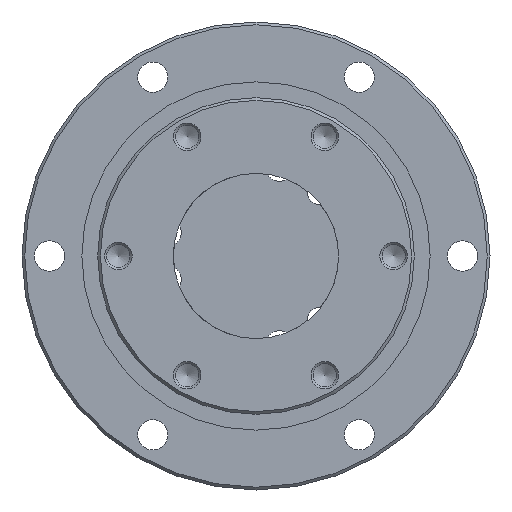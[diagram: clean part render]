
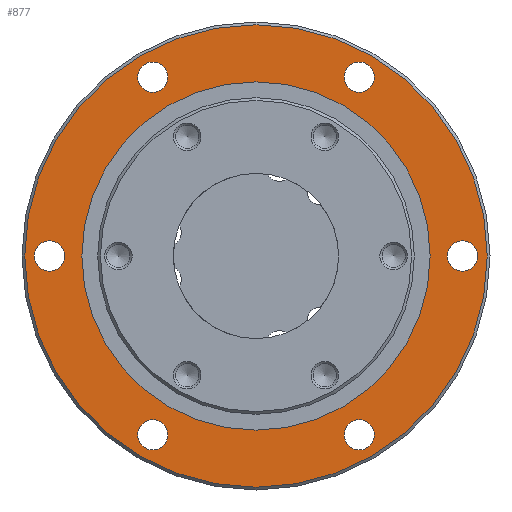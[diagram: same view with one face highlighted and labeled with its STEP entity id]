
A CAD part, left-side view. The second image highlights one B-rep face of the part: STEP entity #877.
In plain terms, the highlighted planar face has unit normal (-1, 0, 0).
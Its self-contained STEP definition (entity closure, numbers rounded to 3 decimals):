
#65=PLANE('',#1007);
#185=ORIENTED_EDGE('',*,*,#335,.F.);
#186=ORIENTED_EDGE('',*,*,#336,.F.);
#187=ORIENTED_EDGE('',*,*,#337,.F.);
#188=ORIENTED_EDGE('',*,*,#338,.F.);
#189=ORIENTED_EDGE('',*,*,#339,.F.);
#190=ORIENTED_EDGE('',*,*,#340,.F.);
#191=ORIENTED_EDGE('',*,*,#341,.F.);
#192=ORIENTED_EDGE('',*,*,#334,.T.);
#334=EDGE_CURVE('',#417,#417,#506,.T.);
#335=EDGE_CURVE('',#418,#418,#507,.T.);
#336=EDGE_CURVE('',#419,#419,#508,.F.);
#337=EDGE_CURVE('',#420,#420,#509,.F.);
#338=EDGE_CURVE('',#421,#421,#510,.F.);
#339=EDGE_CURVE('',#422,#422,#511,.F.);
#340=EDGE_CURVE('',#423,#423,#512,.F.);
#341=EDGE_CURVE('',#424,#424,#513,.F.);
#417=VERTEX_POINT('',#1528);
#418=VERTEX_POINT('',#1531);
#419=VERTEX_POINT('',#1533);
#420=VERTEX_POINT('',#1535);
#421=VERTEX_POINT('',#1537);
#422=VERTEX_POINT('',#1539);
#423=VERTEX_POINT('',#1541);
#424=VERTEX_POINT('',#1543);
#506=CIRCLE('',#1006,63.25);
#507=CIRCLE('',#1008,84.);
#508=CIRCLE('',#1009,5.5);
#509=CIRCLE('',#1010,5.5);
#510=CIRCLE('',#1011,5.5);
#511=CIRCLE('',#1012,5.5);
#512=CIRCLE('',#1013,5.5);
#513=CIRCLE('',#1014,5.5);
#584=EDGE_LOOP('',(#185));
#585=EDGE_LOOP('',(#186));
#586=EDGE_LOOP('',(#187));
#587=EDGE_LOOP('',(#188));
#588=EDGE_LOOP('',(#189));
#589=EDGE_LOOP('',(#190));
#590=EDGE_LOOP('',(#191));
#591=EDGE_LOOP('',(#192));
#716=FACE_BOUND('',#584,.T.);
#717=FACE_BOUND('',#585,.T.);
#718=FACE_BOUND('',#586,.T.);
#719=FACE_BOUND('',#587,.T.);
#720=FACE_BOUND('',#588,.T.);
#721=FACE_BOUND('',#589,.T.);
#722=FACE_BOUND('',#590,.T.);
#723=FACE_BOUND('',#591,.T.);
#877=ADVANCED_FACE('',(#716,#717,#718,#719,#720,#721,#722,#723),#65,.F.);
#1006=AXIS2_PLACEMENT_3D('',#1527,#1228,#1229);
#1007=AXIS2_PLACEMENT_3D('',#1529,#1230,#1231);
#1008=AXIS2_PLACEMENT_3D('',#1530,#1232,#1233);
#1009=AXIS2_PLACEMENT_3D('',#1532,#1234,#1235);
#1010=AXIS2_PLACEMENT_3D('',#1534,#1236,#1237);
#1011=AXIS2_PLACEMENT_3D('',#1536,#1238,#1239);
#1012=AXIS2_PLACEMENT_3D('',#1538,#1240,#1241);
#1013=AXIS2_PLACEMENT_3D('',#1540,#1242,#1243);
#1014=AXIS2_PLACEMENT_3D('',#1542,#1244,#1245);
#1228=DIRECTION('',(1.,0.,0.));
#1229=DIRECTION('',(0.,0.,-1.));
#1230=DIRECTION('',(1.,0.,0.));
#1231=DIRECTION('',(0.,0.,-1.));
#1232=DIRECTION('',(1.,0.,0.));
#1233=DIRECTION('',(0.,0.,-1.));
#1234=DIRECTION('',(1.,0.,0.));
#1235=DIRECTION('',(0.,0.,-1.));
#1236=DIRECTION('',(1.,0.,0.));
#1237=DIRECTION('',(0.,0.,-1.));
#1238=DIRECTION('',(1.,0.,0.));
#1239=DIRECTION('',(0.,0.,-1.));
#1240=DIRECTION('',(1.,0.,0.));
#1241=DIRECTION('',(0.,0.,-1.));
#1242=DIRECTION('',(1.,0.,0.));
#1243=DIRECTION('',(0.,0.,-1.));
#1244=DIRECTION('',(1.,0.,0.));
#1245=DIRECTION('',(0.,0.,-1.));
#1527=CARTESIAN_POINT('',(25.,0.,0.));
#1528=CARTESIAN_POINT('',(25.,0.,-63.25));
#1529=CARTESIAN_POINT('',(25.,63.25,0.));
#1530=CARTESIAN_POINT('',(25.,0.,0.));
#1531=CARTESIAN_POINT('',(25.,0.,-84.));
#1532=CARTESIAN_POINT('',(25.,75.,0.));
#1533=CARTESIAN_POINT('',(25.,75.,-5.5));
#1534=CARTESIAN_POINT('',(25.,37.5,-64.952));
#1535=CARTESIAN_POINT('',(25.,37.5,-70.452));
#1536=CARTESIAN_POINT('',(25.,-37.5,-64.952));
#1537=CARTESIAN_POINT('',(25.,-37.5,-70.452));
#1538=CARTESIAN_POINT('',(25.,-75.,0.));
#1539=CARTESIAN_POINT('',(25.,-75.,-5.5));
#1540=CARTESIAN_POINT('',(25.,-37.5,64.952));
#1541=CARTESIAN_POINT('',(25.,-37.5,59.452));
#1542=CARTESIAN_POINT('',(25.,37.5,64.952));
#1543=CARTESIAN_POINT('',(25.,37.5,59.452));
